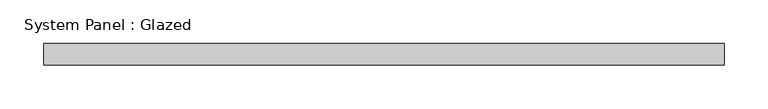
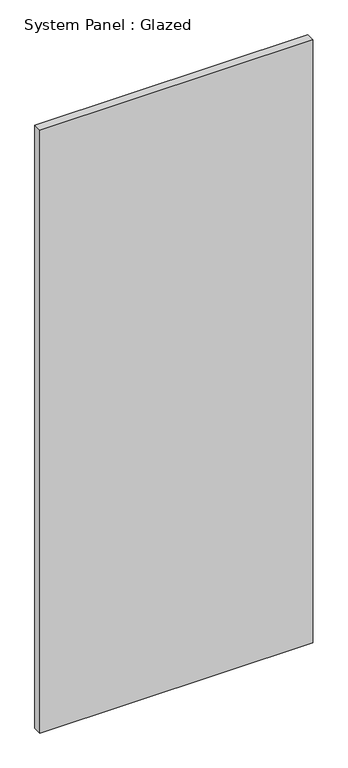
"""IFC4 building model written with IfcOpenShell, lengths in millimetres: plate geometry, System Panel : Glazed."""

from ifc_helpers import new_model, si_unit, origin, origin_with_axes, place, context, project, spatial, polyline, outline, extrude, source, transform, mapped, element, save


def system_panel_glazed_3b1a006d(model_context):
    return source(origin(), model_context, "Body", "SweptSolid", [
        extrude(outline(polyline([(390.6250001, 24.5), (-390.6250001, 24.5), (-390.6250001, 49.5), (390.6250001, 49.5), (390.6250001, 24.5)])), origin_with_axes(), (0.0, 0.0, 1.0), 1825.0),
    ])


if __name__ == "__main__":
    model = new_model("IFC4")
    model_context = context("Model", 3, world=origin())
    ifc_project = project(units=[si_unit("LENGTHUNIT", "METRE", prefix="MILLI")], contexts=[model_context])
    site = spatial("IfcSite", under=ifc_project)
    building = spatial("IfcBuilding", under=site)
    placement = place(None, origin())
    system_panel_glazed_shape = system_panel_glazed_3b1a006d(model_context)
    element("IfcPlate", 1, ObjectType="System Panel : Glazed", at=placement, inside=building, context=model_context, shape_type="MappedRepresentation", body=[
        mapped(system_panel_glazed_shape, transform((0.0, 0.0, 0.0), x_axis=(1.0, 0.0, 0.0), y_axis=(0.0, 1.0, 0.0), z_axis=(0.0, 0.0, 1.0))),
    ])
    save(model, "model.ifc")
